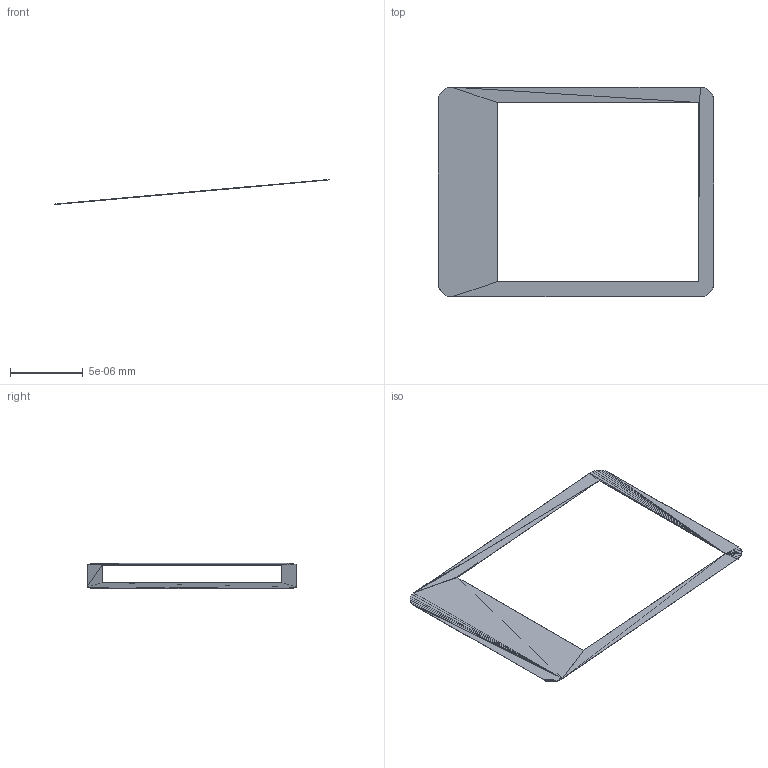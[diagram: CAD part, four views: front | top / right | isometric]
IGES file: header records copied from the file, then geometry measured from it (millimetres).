
Global section: file name: D:\work work Work\JO UNILAMP\Unilamp 2008-2009 up\SONIC\MINI SONIC GEAR\mini sonic gear.IGS; native system:  3D Studio VIZ R3.0 ; preprocessor:  3D Studio VIZ Iges Exporter R3.0 ; author: No Author specified; organization: No Organization specified; units: inch
Bounding box: 0 x 0 x 0 mm (x, y, z)
Surface area: 0 mm2 (no closed solid volume)
Topology: 0 solids, 0 shells, 144 faces, 540 edges, 396 vertices
Faces by surface type: bspline 144
